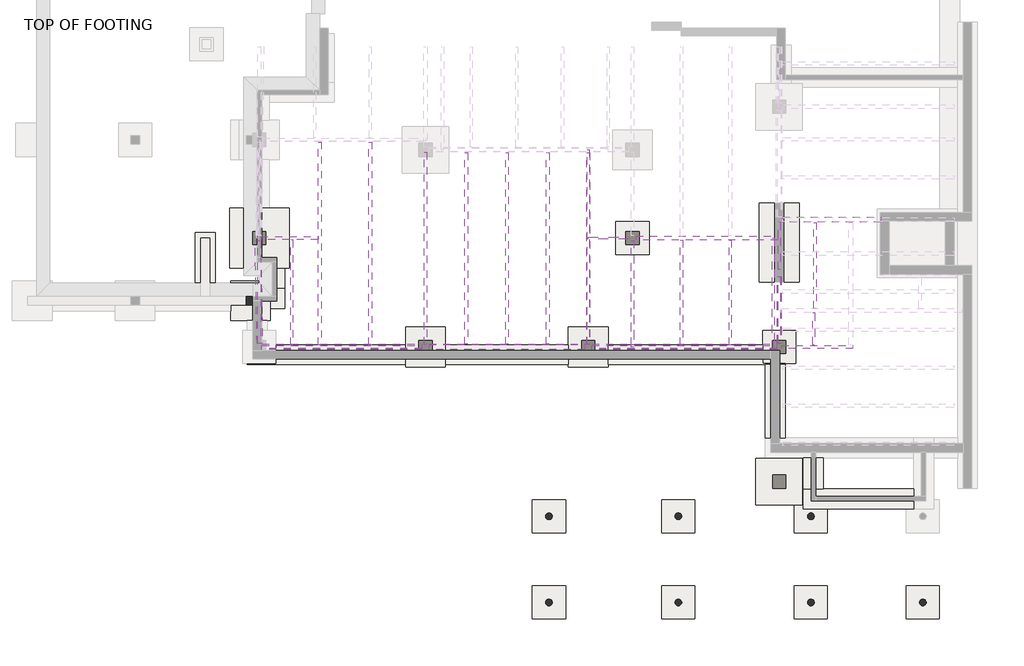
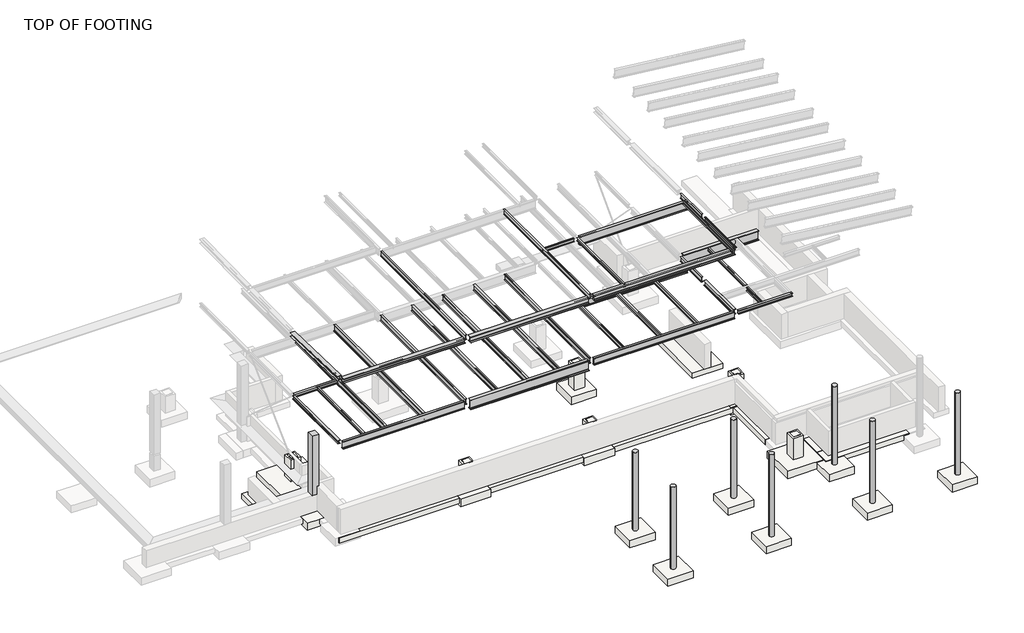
# One storey, part 2 of 4: 35 beams, 14 slabs, 8 columns, 8 footings.
"""IFC4 building model written with IfcOpenShell, lengths in millimetres."""

from ifc_helpers import new_model, si_unit, point, frame, frame_2d, origin, place, context, project, spatial, polyline, circle_curve, trimmed, segment, composite_curve, outline, extrude, faceted_brep, transform, mapped, element, save
from components import w_wide_flange_w10x12_1bd4f99f, w_wide_flange_w10x12_ebacd2cb, w_wide_flange_w10x49_96518129, w_wide_flange_w10x49_8d358260, w_wide_flange_w12x16_ddd03c39, w_wide_flange_w12x16_59da3857, w_wide_flange_w12x19_d63bb9e0, w_wide_flange_w12x30_b48d1e93, w_wide_flange_w12x53_96ffc1ec, w_wide_flange_w14x22_2ac3afcd, w_wide_flange_w14x22_4ceff1ba, w_wide_flange_w14x22_2e51511a, w_wide_flange_w14x22_ec72dc32, w_wide_flange_w14x61_86819d2a, w_wide_flange_w16x26_70125ba5, w_wide_flange_w16x31_951fd6ce, w_wide_flange_w18x46_b0132ec0, w_wide_flange_w21x44_c4d24364, w_wide_flange_w24x84_e470d529, w_wide_flange_w24x84_4409fa3f, w_wide_flange_w8x10_84c81e36, w_wide_flange_w8x10_45ce977e, w_wide_flange_w8x10_f623109c, w_wide_flange_w8x10_993dd0ac, w_wide_flange_w8x10_f96a4068, w_wide_flange_w8x10_729b3ca8, w_wide_flange_w8x10_84773640, w_wide_flange_w8x18_c4c3ec7c, w_wide_flange_w8x18_5f46299d, w_wide_flange_w8x18_17d6e70c, slab_df1ede25, footing_rectangular_with_pier_95157401

model = new_model("IFC4")

# Units and contexts
model_context = context("Model", 3, world=origin())
ifc_project = project(units=[si_unit("LENGTHUNIT", "METRE", prefix="MILLI")], contexts=[model_context])

# Site, building, storey
site = spatial("IfcSite", under=ifc_project)
building = spatial("IfcBuilding", under=site)
storey = spatial("IfcBuildingStorey", under=building, Name="TOP OF FOOTING", Elevation=28905.2)

# Beams
placement = place(None, origin())
w_wide_flange_w10x12_shape = w_wide_flange_w10x12_1bd4f99f(model_context)
element("IfcBeam", 1, ObjectType="W-Wide Flange : W10X12", at=placement, inside=storey, context=model_context, shape_type="MappedRepresentation", body=[
    mapped(w_wide_flange_w10x12_shape, transform((9072.9878726, -4439.2429995, 34253.551), x_axis=(0.0, -1.0, 0.0), y_axis=(1.0, 0.0, 0.0), z_axis=(0.0, 0.0, 1.0))),
])
element("IfcBeam", 2, ObjectType="W-Wide Flange : W10X12", at=placement, inside=storey, context=model_context, shape_type="MappedRepresentation", body=[
    mapped(w_wide_flange_w10x12_shape, transform((11320.358706, -4439.2429995, 34253.551), x_axis=(0.0, -1.0, 0.0), y_axis=(1.0, 0.0, 0.0), z_axis=(0.0, 0.0, 1.0))),
])
w_wide_flange_w10x12_2_shape = w_wide_flange_w10x12_ebacd2cb(model_context)
element("IfcBeam", 3, ObjectType="W-Wide Flange : W10X12", at=placement, inside=storey, context=model_context, shape_type="MappedRepresentation", body=[
    mapped(w_wide_flange_w10x12_2_shape, transform((6825.6170393, -4439.2429995, 34253.551), x_axis=(0.0, -1.0, 0.0), y_axis=(1.0, 0.0, 0.0), z_axis=(0.0, 0.0, 1.0))),
])
w_wide_flange_w10x49_shape = w_wide_flange_w10x49_96518129(model_context)
element("IfcBeam", 4, ObjectType="W-Wide Flange : W10X49", at=placement, inside=storey, context=model_context, shape_type="MappedRepresentation", body=[
    mapped(w_wide_flange_w10x49_shape, transform((-6564.9454607, -6942.7304995, 38277.8), x_axis=(1.0, 0.0, 0.0), y_axis=(0.0, 1.0, 0.0), z_axis=(0.0, 0.0, 1.0))),
])
w_wide_flange_w10x49_2_shape = w_wide_flange_w10x49_8d358260(model_context)
element("IfcBeam", 5, ObjectType="W-Wide Flange : W10X49", at=placement, inside=storey, context=model_context, shape_type="MappedRepresentation", body=[
    mapped(w_wide_flange_w10x49_2_shape, transform((-10353.3115157, -4435.9636409, 38341.3), x_axis=(-0.01923994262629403, 0.9998148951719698, 0.0), y_axis=(-0.9998148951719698, -0.01923994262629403, 0.0), z_axis=(0.0, 0.0, 1.0))),
])
w_wide_flange_w12x16_shape = w_wide_flange_w12x16_ddd03c39(model_context)
element("IfcBeam", 6, ObjectType="W-Wide Flange : W12X16", at=placement, inside=storey, context=model_context, shape_type="MappedRepresentation", body=[
    mapped(w_wide_flange_w12x16_shape, transform((-2689.8579607, -2446.9304995, 38315.9), x_axis=(0.0, 1.0, 0.0), y_axis=(-1.0, 0.0, 0.0), z_axis=(0.0, 0.0, 1.0))),
])
w_wide_flange_w12x16_2_shape = w_wide_flange_w12x16_59da3857(model_context)
element("IfcBeam", 7, ObjectType="W-Wide Flange : W12X16", at=placement, inside=storey, context=model_context, shape_type="MappedRepresentation", body=[
    mapped(w_wide_flange_w12x16_2_shape, transform((13567.7295393, -2311.9929995, 34226.5), x_axis=(0.0, 1.0, 0.0), y_axis=(-1.0, 0.0, 0.0), z_axis=(0.0, 0.0, 1.0))),
])
element("IfcBeam", 8, ObjectType="W-Wide Flange : W12X16", at=placement, inside=storey, context=model_context, shape_type="MappedRepresentation", body=[
    mapped(w_wide_flange_w12x16_2_shape, transform((13567.7295393, -2311.9929995, 38252.4), x_axis=(0.0, 1.0, 0.0), y_axis=(-1.0, 0.0, 0.0), z_axis=(0.0, 0.0, 1.0))),
])
w_wide_flange_w12x19_shape = w_wide_flange_w12x19_d63bb9e0(model_context)
element("IfcBeam", 9, ObjectType="W-Wide Flange : W12X19", at=placement, inside=storey, context=model_context, shape_type="MappedRepresentation", body=[
    mapped(w_wide_flange_w12x19_shape, transform((4795.2045393, -2446.9304995, 38313.36), x_axis=(0.0, 1.0, 0.0), y_axis=(-1.0, 0.0, 0.0), z_axis=(0.0, 0.0, 1.0))),
])
w_wide_flange_w12x30_shape = w_wide_flange_w12x30_b48d1e93(model_context)
element("IfcBeam", 10, ObjectType="W-Wide Flange : W12X30", at=placement, inside=storey, context=model_context, shape_type="MappedRepresentation", body=[
    mapped(w_wide_flange_w12x30_shape, transform((13567.7295393, -5240.9304995, 34222.69), x_axis=(0.0, 1.0, 0.0), y_axis=(-1.0, 0.0, 0.0), z_axis=(0.0, 0.0, 1.0))),
])
w_wide_flange_w12x53_shape = w_wide_flange_w12x53_96ffc1ec(model_context)
element("IfcBeam", 11, ObjectType="W-Wide Flange : W12X53", at=placement, inside=storey, context=model_context, shape_type="MappedRepresentation", body=[
    mapped(w_wide_flange_w12x53_shape, transform((9181.4670393, -6942.7304995, 38251.13), x_axis=(1.0, 0.0, 0.0), y_axis=(0.0, 1.0, 0.0), z_axis=(0.0, 0.0, 1.0))),
])
w_wide_flange_w14x22_shape = w_wide_flange_w14x22_2ac3afcd(model_context)
element("IfcBeam", 12, ObjectType="W-Wide Flange : W14X22", at=placement, inside=storey, context=model_context, shape_type="MappedRepresentation", body=[
    mapped(w_wide_flange_w14x22_shape, transform((-2689.8579607, -2446.9304995, 34204.91), x_axis=(0.0, 1.0, 0.0), y_axis=(-1.0, 0.0, 0.0), z_axis=(0.0, 0.0, 1.0))),
])
w_wide_flange_w14x22_2_shape = w_wide_flange_w14x22_4ceff1ba(model_context)
element("IfcBeam", 13, ObjectType="W-Wide Flange : W14X22", at=placement, inside=storey, context=model_context, shape_type="MappedRepresentation", body=[
    mapped(w_wide_flange_w14x22_2_shape, transform((4795.2045393, -2446.9304995, 34204.91), x_axis=(0.0, 1.0, 0.0), y_axis=(-1.0, 0.0, 0.0), z_axis=(0.0, 0.0, 1.0))),
])
w_wide_flange_w14x22_3_shape = w_wide_flange_w14x22_2e51511a(model_context)
element("IfcBeam", 14, ObjectType="W-Wide Flange : W14X22", at=placement, inside=storey, context=model_context, shape_type="MappedRepresentation", body=[
    mapped(w_wide_flange_w14x22_3_shape, transform((-7549.1954607, -2180.2304995, 34204.91), x_axis=(0.0, 1.0, 0.0), y_axis=(-1.0, 0.0, 0.0), z_axis=(0.0, 0.0, 1.0))),
])
w_wide_flange_w14x22_4_shape = w_wide_flange_w14x22_ec72dc32(model_context)
element("IfcBeam", 15, ObjectType="W-Wide Flange : W14X22", at=placement, inside=storey, context=model_context, shape_type="MappedRepresentation", body=[
    mapped(w_wide_flange_w14x22_4_shape, transform((-818.5923357, -2408.8304995, 34204.91), x_axis=(0.0, 1.0, 0.0), y_axis=(-1.0, 0.0, 0.0), z_axis=(0.0, 0.0, 1.0))),
])
element("IfcBeam", 16, ObjectType="W-Wide Flange : W14X22", at=placement, inside=storey, context=model_context, shape_type="MappedRepresentation", body=[
    mapped(w_wide_flange_w14x22_4_shape, transform((1052.6732893, -2408.8304995, 34204.91), x_axis=(0.0, 1.0, 0.0), y_axis=(-1.0, 0.0, 0.0), z_axis=(0.0, 0.0, 1.0))),
])
element("IfcBeam", 17, ObjectType="W-Wide Flange : W14X22", at=placement, inside=storey, context=model_context, shape_type="MappedRepresentation", body=[
    mapped(w_wide_flange_w14x22_4_shape, transform((2923.9389143, -2408.8304995, 34204.91), x_axis=(0.0, 1.0, 0.0), y_axis=(-1.0, 0.0, 0.0), z_axis=(0.0, 0.0, 1.0))),
])
w_wide_flange_w14x61_shape = w_wide_flange_w14x61_86819d2a(model_context)
element("IfcBeam", 18, ObjectType="W-Wide Flange : W14X61", at=placement, inside=storey, context=model_context, shape_type="MappedRepresentation", body=[
    mapped(w_wide_flange_w14x61_shape, transform((985.2045393, -6942.7304995, 38228.27), x_axis=(1.0, 0.0, 0.0), y_axis=(0.0, 1.0, 0.0), z_axis=(0.0, 0.0, 1.0))),
])
w_wide_flange_w16x26_shape = w_wide_flange_w16x26_70125ba5(model_context)
element("IfcBeam", 19, ObjectType="W-Wide Flange : W16X26", at=placement, inside=storey, context=model_context, shape_type="MappedRepresentation", body=[
    mapped(w_wide_flange_w16x26_shape, transform((-5228.2704607, -2180.2304995, 34179.51), x_axis=(0.0, 1.0, 0.0), y_axis=(-1.0, 0.0, 0.0), z_axis=(0.0, 0.0, 1.0))),
])
w_wide_flange_w16x31_shape = w_wide_flange_w16x31_951fd6ce(model_context)
element("IfcBeam", 20, ObjectType="W-Wide Flange : W16X31", at=placement, inside=storey, context=model_context, shape_type="MappedRepresentation", body=[
    mapped(w_wide_flange_w16x31_shape, transform((9181.4670393, -6942.7304995, 34176.97), x_axis=(1.0, 0.0, 0.0), y_axis=(0.0, 1.0, 0.0), z_axis=(0.0, 0.0, 1.0))),
])
w_wide_flange_w18x46_shape = w_wide_flange_w18x46_b0132ec0(model_context)
element("IfcBeam", 21, ObjectType="W-Wide Flange : W18X46", at=placement, inside=storey, context=model_context, shape_type="MappedRepresentation", body=[
    mapped(w_wide_flange_w18x46_shape, transform((-6564.9454607, -6942.7304995, 34149.03), x_axis=(1.0, 0.0, 0.0), y_axis=(0.0, 1.0, 0.0), z_axis=(0.0, 0.0, 1.0))),
])
w_wide_flange_w21x44_shape = w_wide_flange_w21x44_c4d24364(model_context)
element("IfcBeam", 22, ObjectType="W-Wide Flange : W21X44", at=placement, inside=storey, context=model_context, shape_type="MappedRepresentation", body=[
    mapped(w_wide_flange_w21x44_shape, transform((10196.6732893, -1935.7554995, 34116.01), x_axis=(1.0, 0.0, 0.0), y_axis=(0.0, 1.0, 0.0), z_axis=(0.0, 0.0, 1.0))),
])
element("IfcBeam", 23, ObjectType="W-Wide Flange : W21X44", at=placement, inside=storey, context=model_context, shape_type="MappedRepresentation", body=[
    mapped(w_wide_flange_w21x44_shape, transform((10196.6732893, -1935.7554995, 38141.91), x_axis=(1.0, 0.0, 0.0), y_axis=(0.0, 1.0, 0.0), z_axis=(0.0, 0.0, 1.0))),
])
w_wide_flange_w24x84_shape = w_wide_flange_w24x84_e470d529(model_context)
element("IfcBeam", 24, ObjectType="W-Wide Flange : W24X84", at=placement, inside=storey, context=model_context, shape_type="MappedRepresentation", body=[
    mapped(w_wide_flange_w24x84_shape, transform((985.2045393, -6942.7304995, 34072.83), x_axis=(1.0, 0.0, 0.0), y_axis=(0.0, 1.0, 0.0), z_axis=(0.0, 0.0, 1.0))),
])
w_wide_flange_w24x84_2_shape = w_wide_flange_w24x84_4409fa3f(model_context)
element("IfcBeam", 25, ObjectType="W-Wide Flange : W24X84", at=placement, inside=storey, context=model_context, shape_type="MappedRepresentation", body=[
    mapped(w_wide_flange_w24x84_2_shape, transform((15995.3891096, -1084.8554995, 34072.83), x_axis=(1.0, 0.0, 0.0), y_axis=(0.0, 1.0, 0.0), z_axis=(0.0, 0.0, 1.0))),
])
w_wide_flange_w8x10_shape = w_wide_flange_w8x10_84c81e36(model_context)
element("IfcBeam", 26, ObjectType="W-Wide Flange : W8X10", at=placement, inside=storey, context=model_context, shape_type="MappedRepresentation", body=[
    mapped(w_wide_flange_w8x10_shape, transform((-8844.5954607, -4439.2429995, 34278.697), x_axis=(0.0, 1.0, 0.0), y_axis=(-1.0, 0.0, 0.0), z_axis=(0.0, 0.0, 1.0))),
])
w_wide_flange_w8x10_2_shape = w_wide_flange_w8x10_45ce977e(model_context)
element("IfcBeam", 27, ObjectType="W-Wide Flange : W8X10", at=placement, inside=storey, context=model_context, shape_type="MappedRepresentation", body=[
    mapped(w_wide_flange_w8x10_2_shape, transform((13297.8545393, -4477.3429995, 38368.097), x_axis=(0.0, 1.0, 0.0), y_axis=(-1.0, 0.0, 0.0), z_axis=(0.0, 0.0, 1.0))),
])
w_wide_flange_w8x10_3_shape = w_wide_flange_w8x10_f623109c(model_context)
element("IfcBeam", 28, ObjectType="W-Wide Flange : W8X10", at=placement, inside=storey, context=model_context, shape_type="MappedRepresentation", body=[
    mapped(w_wide_flange_w8x10_3_shape, transform((13567.7295393, -5240.9304995, 38304.597), x_axis=(0.0, 1.0, 0.0), y_axis=(-1.0, 0.0, 0.0), z_axis=(0.0, 0.0, 1.0))),
])
w_wide_flange_w8x10_4_shape = w_wide_flange_w8x10_993dd0ac(model_context)
element("IfcBeam", 29, ObjectType="W-Wide Flange : W8X10", at=placement, inside=storey, context=model_context, shape_type="MappedRepresentation", body=[
    mapped(w_wide_flange_w8x10_4_shape, transform((15158.4045393, -6104.5304995, 34278.697), x_axis=(0.0, 1.0, 0.0), y_axis=(-1.0, 0.0, 0.0), z_axis=(0.0, 0.0, 1.0))),
])
w_wide_flange_w8x10_5_shape = w_wide_flange_w8x10_f96a4068(model_context)
element("IfcBeam", 30, ObjectType="W-Wide Flange : W8X10", at=placement, inside=storey, context=model_context, shape_type="MappedRepresentation", body=[
    mapped(w_wide_flange_w8x10_5_shape, transform((15213.9670393, -3175.5929995, 34278.697), x_axis=(0.0, 1.0, 0.0), y_axis=(-1.0, 0.0, 0.0), z_axis=(0.0, 0.0, 1.0))),
])
w_wide_flange_w8x10_6_shape = w_wide_flange_w8x10_729b3ca8(model_context)
element("IfcBeam", 31, ObjectType="W-Wide Flange : W8X10", at=placement, inside=storey, context=model_context, shape_type="MappedRepresentation", body=[
    mapped(w_wide_flange_w8x10_6_shape, transform((6825.6170393, -4439.2429995, 38368.097), x_axis=(0.0, -1.0, 0.0), y_axis=(1.0, 0.0, 0.0), z_axis=(0.0, 0.0, 1.0))),
])
w_wide_flange_w8x10_7_shape = w_wide_flange_w8x10_84773640(model_context)
element("IfcBeam", 32, ObjectType="W-Wide Flange : W8X10", at=placement, inside=storey, context=model_context, shape_type="MappedRepresentation", body=[
    mapped(w_wide_flange_w8x10_7_shape, transform((5802.693765, -1935.7554995, 38304.597), x_axis=(-1.0, 0.0, 0.0), y_axis=(0.0, -1.0, 0.0), z_axis=(0.0, 0.0, 1.0))),
])
w_wide_flange_w8x18_shape = w_wide_flange_w8x18_c4c3ec7c(model_context)
element("IfcBeam", 33, ObjectType="W-Wide Flange : W8X18", at=placement, inside=storey, context=model_context, shape_type="MappedRepresentation", body=[
    mapped(w_wide_flange_w8x18_shape, transform((15213.9670393, -6942.7304995, 34275.522), x_axis=(1.0, 0.0, 0.0), y_axis=(0.0, 1.0, 0.0), z_axis=(0.0, 0.0, 1.0))),
])
w_wide_flange_w8x18_2_shape = w_wide_flange_w8x18_5f46299d(model_context)
element("IfcBeam", 34, ObjectType="W-Wide Flange : W8X18", at=placement, inside=storey, context=model_context, shape_type="MappedRepresentation", body=[
    mapped(w_wide_flange_w8x18_2_shape, transform((-10327.3204607, -4437.8823673, 34275.522), x_axis=(0.0, -1.0, 0.0), y_axis=(1.0, 0.0, 0.0), z_axis=(0.0, 0.0, 1.0))),
])
w_wide_flange_w8x18_3_shape = w_wide_flange_w8x18_17d6e70c(model_context)
element("IfcBeam", 35, ObjectType="W-Wide Flange : W8X18", at=placement, inside=storey, context=model_context, shape_type="MappedRepresentation", body=[
    mapped(w_wide_flange_w8x18_3_shape, transform((-8938.2579607, -1935.7554995, 34275.522), x_axis=(1.0, 0.0, 0.0), y_axis=(0.0, 1.0, 0.0), z_axis=(0.0, 0.0, 1.0))),
])

# Columns
element("IfcColumn", 36, ObjectType="Concrete-Rectangular-Column : 16 x 16", at=placement, inside=storey, context=model_context, shape_type="Brep", body=[
    faceted_brep([(-10529.7763201, -4618.6304995, 33782.0), (-10529.7763201, -5025.0304995, 33782.0), (-10529.7763201, -5025.0304995, 30480.0), (-10529.7763201, -4618.6304995, 30480.0), (-10936.1763201, -5025.0304995, 33782.0), (-10936.1763201, -5025.0304995, 29972.0), (-10632.1204607, -5025.0304995, 29972.0), (-10632.1204607, -5025.0304995, 30480.0), (-10936.1763201, -4618.6304995, 33782.0), (-10936.1763201, -4618.6304995, 29972.0), (-10632.1204607, -4618.6304995, 30480.0), (-10632.1204607, -4618.6304995, 29972.0), (-10632.1204607, -4821.8304995, 30480.0)], [[[0, 1, 2, 3]], [[1, 4, 5, 6, 7, 2]], [[4, 8, 9, 5]], [[8, 0, 3, 10, 11, 9]], [[1, 0, 8, 4]], [[11, 6, 5, 9]], [[7, 6, 11, 10, 12]], [[7, 12, 10, 3, 2]]]),
])
element("IfcColumn", 37, ObjectType="Concrete-Round-Column1 : 12\"", at=placement, inside=storey, context=model_context, shape_type="SweptSolid", body=[
    extrude(outline(composite_curve([segment(trimmed(circle_curve(frame_2d((15024.5462086, -14731.7497924)), 152.4), [point((14872.1462086, -14731.7497924))], [point((15176.9462086, -14731.7497924))], False, "CARTESIAN"), True, "CONTINUOUS"), segment(trimmed(circle_curve(frame_2d((15024.5462086, -14731.7497924)), 152.4), [point((15176.9462086, -14731.7497924))], [point((14872.1462086, -14731.7497924))], False, "CARTESIAN"), True, "CONTINUOUS")], self_intersect=False)), frame((0.0, 0.0, 28854.4), z_axis=(0.0, 0.0, 1.0), x_axis=(1.0, 0.0, 0.0)), (0.0, 0.0, 1.0), 5003.8),
])
element("IfcColumn", 38, ObjectType="Concrete-Round-Column1 : 12\"", at=placement, inside=storey, context=model_context, shape_type="SweptSolid", body=[
    extrude(outline(composite_curve([segment(trimmed(circle_curve(frame_2d((8928.5462086, -14731.7497924)), 152.4), [point((8776.1462086, -14731.7497924))], [point((9080.9462086, -14731.7497924))], False, "CARTESIAN"), True, "CONTINUOUS"), segment(trimmed(circle_curve(frame_2d((8928.5462086, -14731.7497924)), 152.4), [point((9080.9462086, -14731.7497924))], [point((8776.1462086, -14731.7497924))], False, "CARTESIAN"), True, "CONTINUOUS")], self_intersect=False)), frame((0.0, 0.0, 28854.4), z_axis=(0.0, 0.0, 1.0), x_axis=(1.0, 0.0, 0.0)), (0.0, 0.0, 1.0), 5003.8),
])
element("IfcColumn", 39, ObjectType="Concrete-Round-Column1 : 12\"", at=placement, inside=storey, context=model_context, shape_type="SweptSolid", body=[
    extrude(outline(composite_curve([segment(trimmed(circle_curve(frame_2d((2984.9462086, -14731.7497924)), 152.4), [point((2832.5462086, -14731.7497924))], [point((3137.3462086, -14731.7497924))], False, "CARTESIAN"), True, "CONTINUOUS"), segment(trimmed(circle_curve(frame_2d((2984.9462086, -14731.7497924)), 152.4), [point((3137.3462086, -14731.7497924))], [point((2832.5462086, -14731.7497924))], False, "CARTESIAN"), True, "CONTINUOUS")], self_intersect=False)), frame((0.0, 0.0, 28854.4), z_axis=(0.0, 0.0, 1.0), x_axis=(1.0, 0.0, 0.0)), (0.0, 0.0, 1.0), 5003.8),
])
element("IfcColumn", 40, ObjectType="Concrete-Round-Column1 : 12\"", at=placement, inside=storey, context=model_context, shape_type="SweptSolid", body=[
    extrude(outline(composite_curve([segment(trimmed(circle_curve(frame_2d((20168.0462086, -18694.1497924)), 152.4), [point((20015.6462086, -18694.1497924))], [point((20320.4462086, -18694.1497924))], False, "CARTESIAN"), True, "CONTINUOUS"), segment(trimmed(circle_curve(frame_2d((20168.0462086, -18694.1497924)), 152.4), [point((20320.4462086, -18694.1497924))], [point((20015.6462086, -18694.1497924))], False, "CARTESIAN"), True, "CONTINUOUS")], self_intersect=False)), frame((0.0, 0.0, 28803.6), z_axis=(0.0, 0.0, 1.0), x_axis=(1.0, 0.0, 0.0)), (0.0, 0.0, 1.0), 5232.4),
])
element("IfcColumn", 41, ObjectType="Concrete-Round-Column1 : 12\"", at=placement, inside=storey, context=model_context, shape_type="SweptSolid", body=[
    extrude(outline(composite_curve([segment(trimmed(circle_curve(frame_2d((15024.5462086, -18694.1497924)), 152.4), [point((14872.1462086, -18694.1497924))], [point((15176.9462086, -18694.1497924))], False, "CARTESIAN"), True, "CONTINUOUS"), segment(trimmed(circle_curve(frame_2d((15024.5462086, -18694.1497924)), 152.4), [point((15176.9462086, -18694.1497924))], [point((14872.1462086, -18694.1497924))], False, "CARTESIAN"), True, "CONTINUOUS")], self_intersect=False)), frame((0.0, 0.0, 28803.6), z_axis=(0.0, 0.0, 1.0), x_axis=(1.0, 0.0, 0.0)), (0.0, 0.0, 1.0), 5232.4),
])
element("IfcColumn", 42, ObjectType="Concrete-Round-Column1 : 12\"", at=placement, inside=storey, context=model_context, shape_type="SweptSolid", body=[
    extrude(outline(composite_curve([segment(trimmed(circle_curve(frame_2d((8928.5462086, -18694.1497924)), 152.4), [point((8776.1462086, -18694.1497924))], [point((9080.9462086, -18694.1497924))], False, "CARTESIAN"), True, "CONTINUOUS"), segment(trimmed(circle_curve(frame_2d((8928.5462086, -18694.1497924)), 152.4), [point((9080.9462086, -18694.1497924))], [point((8776.1462086, -18694.1497924))], False, "CARTESIAN"), True, "CONTINUOUS")], self_intersect=False)), frame((0.0, 0.0, 28803.6), z_axis=(0.0, 0.0, 1.0), x_axis=(1.0, 0.0, 0.0)), (0.0, 0.0, 1.0), 5232.4),
])
element("IfcColumn", 43, ObjectType="Concrete-Round-Column1 : 12\"", at=placement, inside=storey, context=model_context, shape_type="SweptSolid", body=[
    extrude(outline(composite_curve([segment(trimmed(circle_curve(frame_2d((2984.9462086, -18694.1497924)), 152.4), [point((2832.5462086, -18694.1497924))], [point((3137.3462086, -18694.1497924))], False, "CARTESIAN"), True, "CONTINUOUS"), segment(trimmed(circle_curve(frame_2d((2984.9462086, -18694.1497924)), 152.4), [point((3137.3462086, -18694.1497924))], [point((2832.5462086, -18694.1497924))], False, "CARTESIAN"), True, "CONTINUOUS")], self_intersect=False)), frame((0.0, 0.0, 28803.6), z_axis=(0.0, 0.0, 1.0), x_axis=(1.0, 0.0, 0.0)), (0.0, 0.0, 1.0), 5232.4),
])

# Footings
element("IfcFooting", 44, ObjectType="Bearing Footing - 36\" x 12\"", at=placement, inside=storey, context=model_context, shape_type="Brep", body=[
    faceted_brep([(14682.1545393, -14384.9304995, 28905.2), (19749.4545393, -14384.9304995, 28905.2), (19749.4545393, -13470.5304995, 28905.2), (15596.5545393, -13470.5304995, 28905.2), (14682.1545393, -13470.5304995, 28905.2), (19749.4545393, -13470.5304995, 28600.4), (15596.5545393, -13470.5304995, 28600.4), (14682.1545393, -13470.5304995, 28600.4), (19749.4545393, -13969.7497924, 28600.4), (19406.0462086, -13969.7497924, 28600.4), (19406.0462086, -14384.9304995, 28600.4), (15786.5462086, -14384.9304995, 28600.4), (15786.5462086, -13969.7497924, 28600.4), (14682.1545393, -13969.7497924, 28600.4), (14682.1545393, -14384.9304995, 28854.4), (15786.5462086, -14384.9304995, 28854.4), (19406.0462086, -14384.9304995, 28854.4), (19749.4545393, -14384.9304995, 28854.4), (19749.4545393, -13969.7497924, 28854.4), (14682.1545393, -13969.7497924, 28854.4), (15786.5462086, -13969.7497924, 28854.4), (19406.0462086, -13969.7497924, 28854.4)], [[[0, 1, 2, 3, 4]], [[4, 3, 2, 5, 6, 7]], [[7, 6, 5, 8, 9, 10, 11, 12, 13]], [[1, 0, 14, 15, 11, 10, 16, 17]], [[2, 1, 17, 18, 8, 5]], [[0, 4, 7, 13, 19, 14]], [[20, 15, 14, 19]], [[12, 20, 19, 13]], [[15, 20, 12, 11]], [[16, 21, 18, 17]], [[18, 21, 9, 8]], [[21, 16, 10, 9]]]),
])
element("IfcFooting", 45, ObjectType="Bearing Footing - 36\" x 12\"", at=placement, inside=storey, context=model_context, shape_type="Brep", body=[
    faceted_brep([(-9565.3204607, -7704.7304995, 28905.2), (-10886.1204607, -7704.7304995, 28905.2), (-10886.1204607, -7755.5304995, 28905.2), (-3604.2579607, -7755.5304995, 28905.2), (-3604.2579607, -6841.1304995, 28905.2), (-9565.3204607, -6841.1304995, 28905.2), (-10886.1204607, -7755.5304995, 28600.4), (-3604.2579607, -7755.5304995, 28600.4), (-10886.1204607, -7704.7304995, 28600.4), (-9565.3204607, -7704.7304995, 28600.4), (-9565.3204607, -6841.1304995, 28600.4), (-3604.2579607, -6841.1304995, 28600.4)], [[[0, 1, 2, 3, 4, 5]], [[2, 6, 7, 3]], [[7, 6, 8, 9, 10, 11]], [[10, 5, 4, 11]], [[0, 9, 8, 1]], [[9, 0, 5, 10]], [[6, 2, 1, 8]], [[4, 3, 7, 11]]]),
    faceted_brep([(12805.7295393, -7704.7304995, 28905.2), (12805.7295393, -6841.1304995, 28905.2), (5709.6045393, -6841.1304995, 28905.2), (5709.6045393, -7755.5304995, 28905.2), (12923.2045393, -7755.5304995, 28905.2), (13837.6045393, -7755.5304995, 28905.2), (13837.6045393, -7704.7304995, 28905.2), (13837.6045393, -7755.5304995, 28600.4), (5709.6045393, -7755.5304995, 28600.4), (12923.2045393, -7755.5304995, 28600.4), (13837.6045393, -7704.7304995, 28600.4), (5709.6045393, -6841.1304995, 28600.4), (12805.7295393, -6841.1304995, 28600.4), (12805.7295393, -7704.7304995, 28600.4)], [[[0, 1, 2, 3, 4, 5, 6]], [[7, 5, 4, 3, 8, 9]], [[10, 7, 9, 8, 11, 12, 13]], [[1, 12, 11, 2]], [[0, 13, 12, 1]], [[13, 0, 6, 10]], [[5, 7, 10, 6]], [[3, 2, 11, 8]]]),
    faceted_brep([(-1775.4579607, -6841.1304995, 28905.2), (-1775.4579607, -7755.5304995, 28905.2), (3880.8045393, -7755.5304995, 28905.2), (3880.8045393, -6841.1304995, 28905.2), (-1775.4579607, -7755.5304995, 28600.4), (3880.8045393, -7755.5304995, 28600.4), (-1775.4579607, -6841.1304995, 28600.4), (3880.8045393, -6841.1304995, 28600.4)], [[[0, 1, 2, 3]], [[1, 4, 5, 2]], [[4, 6, 7, 5]], [[6, 0, 3, 7]], [[1, 0, 6, 4]], [[3, 2, 5, 7]]]),
])
element("IfcFooting", 46, ObjectType="Bearing Footing - 36\" x 12\"", at=placement, inside=storey, context=model_context, shape_type="SweptSolid", body=[
    extrude(outline(polyline([(14682.1545393, -12041.7804995), (15596.5545393, -12041.7804995), (15596.5545393, -13470.5304995), (14682.1545393, -13470.5304995), (14682.1545393, -12041.7804995)])), frame((0.0, 0.0, 28600.4), z_axis=(0.0, 0.0, 1.0), x_axis=(1.0, 0.0, 0.0)), (0.0, 0.0, 1.0), 304.8),
])
element("IfcFooting", 47, ObjectType="Bearing Footing - 36\" x 12\"", at=placement, inside=storey, context=model_context, shape_type="SweptSolid", body=[
    extrude(outline(polyline([(12923.2045393, -7755.5304995), (13837.6045393, -7755.5304995), (13837.6045393, -11127.3804995), (12923.2045393, -11127.3804995), (12923.2045393, -7755.5304995)])), frame((0.0, 0.0, 28600.4), z_axis=(0.0, 0.0, 1.0), x_axis=(1.0, 0.0, 0.0)), (0.0, 0.0, 1.0), 304.8),
])
element("IfcFooting", 48, ObjectType="Bearing Footing - 36\" x 12\"", at=placement, inside=storey, context=model_context, shape_type="SweptSolid", body=[
    extrude(outline(polyline([(-12354.5579607, -4364.6304995), (-13268.9579607, -4364.6304995), (-13268.9579607, -1681.7554995), (-12354.5579607, -1681.7554995), (-12354.5579607, -4364.6304995)])), frame((0.0, 0.0, 28600.4), z_axis=(0.0, 0.0, 1.0), x_axis=(1.0, 0.0, 0.0)), (0.0, 0.0, 1.0), 304.8),
])
element("IfcFooting", 49, ObjectType="Bearing Footing - 36\" x 12\"", at=placement, inside=storey, context=model_context, shape_type="SweptSolid", body=[
    extrude(outline(polyline([(-9168.4454607, -4263.0304995), (-9168.4454607, -5177.4304995), (-9818.5763201, -5177.4304995), (-9818.5763201, -4263.0304995), (-9168.4454607, -4263.0304995)])), frame((0.0, 0.0, 28600.4), z_axis=(0.0, 0.0, 1.0), x_axis=(1.0, 0.0, 0.0)), (0.0, 0.0, 1.0), 304.8),
])
element("IfcFooting", 50, ObjectType="Bearing Footing - 36\" x 12\"", at=placement, inside=storey, context=model_context, shape_type="Brep", body=[
    faceted_brep([(-10082.8454607, -3907.4304995, 28905.2), (-9818.5763201, -3907.4304995, 28905.2), (-9818.5763201, -4263.0304995, 28905.2), (-9168.4454607, -4263.0304995, 28905.2), (-9168.4454607, -3307.3554995, 28905.2), (-9870.1204607, -3307.3554995, 28905.2), (-9870.1204607, -3396.2554995, 28905.2), (-10082.8454607, -3396.2554995, 28905.2), (-9168.4454607, -3307.3554995, 28625.8), (-9168.4454607, -4263.0304995, 28600.4), (-9168.4454607, -2481.8554995, 28600.4), (-9168.4454607, -2481.8554995, 28625.8), (-9818.5763201, -3907.4304995, 28600.4), (-10082.8454607, -3907.4304995, 28600.4), (-10082.8454607, -3396.2554995, 28600.4), (-9870.1204607, -3396.2554995, 28600.4), (-9870.1204607, -2481.8554995, 28600.4), (-9818.5763201, -4263.0304995, 28600.4), (-9870.1204607, -3307.3554995, 28625.8), (-9870.1204607, -2481.8554995, 28625.8)], [[[0, 1, 2, 3, 4, 5, 6, 7]], [[8, 4, 3, 9, 10, 11]], [[12, 13, 14, 15, 16, 10, 9, 17]], [[13, 0, 7, 14]], [[4, 8, 18, 5]], [[12, 1, 0, 13]], [[1, 12, 17, 2]], [[3, 2, 17, 9]], [[11, 10, 16, 19]], [[15, 6, 5, 18, 19, 16]], [[6, 15, 14, 7]], [[8, 11, 19, 18]]]),
])
element("IfcFooting", 51, ObjectType="Bearing Footing - 72\" x 12\" 2", at=placement, inside=storey, context=model_context, shape_type="SweptSolid", body=[
    extrude(outline(polyline([(12653.3295393, -326.0304995), (14482.1295393, -326.0304995), (14482.1295393, -3958.2304995), (12653.3295393, -3958.2304995), (12653.3295393, -326.0304995)])), frame((0.0, 0.0, 28600.4), z_axis=(0.0, 0.0, 1.0), x_axis=(1.0, 0.0, 0.0)), (0.0, 0.0, 1.0), 304.8),
])

# Slabs
element("IfcSlab", 52, ObjectType="Footing-Rectangular : 5'-0\" x 5'-0\" x 1'-6\"", at=placement, inside=storey, context=model_context, shape_type="Brep", body=[
    faceted_brep([(14262.5462086, -15493.7497924, 28854.4), (15786.5462086, -15493.7497924, 28854.4), (15786.5462086, -14384.9304995, 28854.4), (15786.5462086, -13969.7497924, 28854.4), (14682.1545393, -13969.7497924, 28854.4), (14634.5295393, -13969.7497924, 28854.4), (14634.5295393, -14207.1801089, 28854.4), (14262.5462086, -14207.1801089, 28854.4), (15786.5462086, -13969.7497924, 28397.2), (15786.5462086, -15493.7497924, 28397.2), (14262.5462086, -15493.7497924, 28397.2), (14262.5462086, -13969.7497924, 28397.2), (14262.5462086, -13969.7497924, 28448.0), (14634.5295393, -13969.7497924, 28448.0), (15786.5462086, -13969.7497924, 28600.4), (14262.5462086, -14207.1801089, 28448.0), (14634.5295393, -14207.1801089, 28448.0)], [[[0, 1, 2, 3, 4, 5, 6, 7]], [[8, 9, 10, 11]], [[8, 11, 12, 13, 5, 4, 3, 14]], [[11, 10, 0, 7, 15, 12]], [[1, 0, 10, 9]], [[3, 2, 1, 9, 8, 14]], [[15, 16, 13, 12]], [[16, 15, 7, 6]], [[13, 16, 6, 5]]]),
])
slab_shape = slab_df1ede25(model_context)
element("IfcSlab", 53, ObjectType="Footing-Rectangular : 5'-0\" x 5'-0\" x 1'-6\"", at=placement, inside=storey, context=model_context, shape_type="MappedRepresentation", body=[
    mapped(slab_shape, transform((2984.9462086, -14731.7497924, 28854.4), x_axis=(1.0, 0.0, 0.0), y_axis=(0.0, 1.0, 0.0), z_axis=(0.0, 0.0, 1.0))),
])
element("IfcSlab", 54, ObjectType="Footing-Rectangular : 5'-0\" x 5'-0\" x 1'-6\"", at=placement, inside=storey, context=model_context, shape_type="MappedRepresentation", body=[
    mapped(slab_shape, transform((2984.9462086, -18694.1497924, 28803.6), x_axis=(1.0, 0.0, 0.0), y_axis=(0.0, 1.0, 0.0), z_axis=(0.0, 0.0, 1.0))),
])
element("IfcSlab", 55, ObjectType="Footing-Rectangular : 5'-0\" x 5'-0\" x 1'-6\"", at=placement, inside=storey, context=model_context, shape_type="MappedRepresentation", body=[
    mapped(slab_shape, transform((8928.5462086, -18694.1497924, 28803.6), x_axis=(1.0, 0.0, 0.0), y_axis=(0.0, 1.0, 0.0), z_axis=(0.0, 0.0, 1.0))),
])
element("IfcSlab", 56, ObjectType="Footing-Rectangular : 5'-0\" x 5'-0\" x 1'-6\"", at=placement, inside=storey, context=model_context, shape_type="MappedRepresentation", body=[
    mapped(slab_shape, transform((8928.5462086, -14731.7497924, 28854.4), x_axis=(1.0, 0.0, 0.0), y_axis=(0.0, 1.0, 0.0), z_axis=(0.0, 0.0, 1.0))),
])
element("IfcSlab", 57, ObjectType="Footing-Rectangular : 5'-0\" x 5'-0\" x 1'-6\"", at=placement, inside=storey, context=model_context, shape_type="MappedRepresentation", body=[
    mapped(slab_shape, transform((15024.5462086, -18694.1497924, 28803.6), x_axis=(1.0, 0.0, 0.0), y_axis=(0.0, 1.0, 0.0), z_axis=(0.0, 0.0, 1.0))),
])
element("IfcSlab", 58, ObjectType="Footing-Rectangular : 5'-0\" x 5'-0\" x 1'-6\"", at=placement, inside=storey, context=model_context, shape_type="MappedRepresentation", body=[
    mapped(slab_shape, transform((20168.0462086, -18694.1497924, 28803.6), x_axis=(1.0, 0.0, 0.0), y_axis=(0.0, 1.0, 0.0), z_axis=(0.0, 0.0, 1.0))),
])
element("IfcSlab", 59, ObjectType="Footing-Rectangular : 6'-0\" x 6'-0\" x 1'-6\"", at=placement, inside=storey, context=model_context, shape_type="Brep", body=[
    faceted_brep([(-9818.5763201, -3907.4304995, 28905.2), (-10082.8454607, -3907.4304995, 28905.2), (-11647.3763201, -3907.4304995, 28905.2), (-11647.3763201, -4364.6304995, 28905.2), (-11647.3763201, -5279.0304995, 28905.2), (-11647.3763201, -5736.2304995, 28905.2), (-10886.1204607, -5736.2304995, 28905.2), (-9971.7204607, -5736.2304995, 28905.2), (-9818.5763201, -5736.2304995, 28905.2), (-9818.5763201, -5177.4304995, 28905.2), (-9818.5763201, -4263.0304995, 28905.2), (-9818.5763201, -3907.4304995, 28448.0), (-9818.5763201, -5736.2304995, 28448.0), (-11647.3763201, -5736.2304995, 28448.0), (-11647.3763201, -3907.4304995, 28448.0), (-9818.5763201, -3907.4304995, 28600.4)], [[[0, 1, 2, 3, 4, 5, 6, 7, 8, 9, 10]], [[11, 12, 13, 14]], [[2, 1, 0, 15, 11, 14]], [[5, 4, 3, 2, 14, 13]], [[8, 7, 6, 5, 13, 12]], [[0, 10, 9, 8, 12, 11, 15]]]),
])
element("IfcSlab", 60, ObjectType="Footing-Rectangular_With_Pier : F2 - 9'-0\" x 9'-0\" x 1'-6\"", at=placement, inside=storey, context=model_context, shape_type="SolidModel", body=[
    extrude(outline(polyline([(-10022.5204607, -1630.9554995), (-10022.5204607, -2240.5554995), (-10632.1204607, -2240.5554995), (-10632.1204607, -1630.9554995), (-10022.5204607, -1630.9554995)])), frame((0.0, 0.0, 29083.0), z_axis=(0.0, 0.0, 1.0), x_axis=(1.0, 0.0, 0.0)), (0.0, 0.0, 1.0), 1371.6),
    faceted_brep([(-8955.7204607, -564.1554995, 29083.0), (-11698.9204607, -564.1554995, 29083.0), (-11698.9204607, -3307.3554995, 29083.0), (-8955.7204607, -3307.3554995, 29083.0), (-8955.7204607, -564.1554995, 28625.8), (-8955.7204607, -3307.3554995, 28625.8), (-9168.4454607, -3307.3554995, 28625.8), (-9870.1204607, -3307.3554995, 28625.8), (-10784.5204607, -3307.3554995, 28625.8), (-11698.9204607, -3307.3554995, 28625.8), (-11698.9204607, -564.1554995, 28625.8), (-10784.5204607, -564.1554995, 28625.8), (-9870.1204607, -564.1554995, 28625.8)], [[[0, 1, 2, 3]], [[4, 5, 6, 7, 8, 9, 10, 11, 12]], [[1, 0, 4, 12, 11, 10]], [[2, 1, 10, 9]], [[3, 2, 9, 8, 7, 6, 5]], [[0, 3, 5, 4]]]),
    extrude(outline(polyline([(-10124.1204607, -1732.5554995), (-10124.1204607, -2138.9554995), (-10530.5204607, -2138.9554995), (-10530.5204607, -1732.5554995), (-10124.1204607, -1732.5554995)])), frame((0.0, 0.0, 30454.6), z_axis=(0.0, 0.0, 1.0), x_axis=(1.0, 0.0, 0.0)), (0.0, 0.0, 1.0), 25.4),
])
element("IfcSlab", 61, ObjectType="Footing-Rectangular_With_Pier : F7 - 7'-0\" x 7'-0\" x 1'-6\"", at=placement, inside=storey, context=model_context, shape_type="SolidModel", body=[
    extrude(outline(polyline([(13872.5295393, -12835.5801089), (13872.5295393, -13445.1801089), (13262.9295393, -13445.1801089), (13262.9295393, -12835.5801089), (13872.5295393, -12835.5801089)])), frame((0.0, 0.0, 28905.2), z_axis=(0.0, 0.0, 1.0), x_axis=(1.0, 0.0, 0.0)), (0.0, 0.0, 1.0), 1371.6),
    faceted_brep([(14634.5295393, -12073.5801089, 28905.2), (12500.9295393, -12073.5801089, 28905.2), (12500.9295393, -14207.1801089, 28905.2), (14634.5295393, -14207.1801089, 28905.2), (14634.5295393, -12073.5801089, 28448.0), (14634.5295393, -13969.7497924, 28448.0), (14634.5295393, -14207.1801089, 28448.0), (14262.5462086, -14207.1801089, 28448.0), (12500.9295393, -14207.1801089, 28448.0), (12500.9295393, -12073.5801089, 28448.0), (14634.5295393, -14207.1801089, 28854.4)], [[[0, 1, 2, 3]], [[4, 5, 6, 7, 8, 9]], [[1, 0, 4, 9]], [[2, 1, 9, 8]], [[3, 2, 8, 7, 6, 10]], [[0, 3, 10, 6, 5, 4]]]),
    extrude(outline(polyline([(13770.9295393, -12937.1801089), (13770.9295393, -13343.5801089), (13364.5295393, -13343.5801089), (13364.5295393, -12937.1801089), (13770.9295393, -12937.1801089)])), frame((0.0, 0.0, 30276.8), z_axis=(0.0, 0.0, 1.0), x_axis=(1.0, 0.0, 0.0)), (0.0, 0.0, 1.0), 25.4),
])
element("IfcSlab", 62, ObjectType="Footing-Rectangular_With_Pier : F3 - 6'-0\" x 6'-0\" x 1'-6\"", at=placement, inside=storey, context=model_context, shape_type="SolidModel", body=[
    extrude(outline(polyline([(-2385.0579607, -6637.9304995), (-2385.0579607, -7247.5304995), (-2994.6579607, -7247.5304995), (-2994.6579607, -6637.9304995), (-2385.0579607, -6637.9304995)])), frame((0.0, 0.0, 28905.2), z_axis=(0.0, 0.0, 1.0), x_axis=(1.0, 0.0, 0.0)), (0.0, 0.0, 1.0), 1549.4),
    faceted_brep([(-1775.4579607, -6028.3304995, 28905.2), (-3604.2579607, -6028.3304995, 28905.2), (-3604.2579607, -6841.1304995, 28905.2), (-3604.2579607, -7755.5304995, 28905.2), (-3604.2579607, -7857.1304995, 28905.2), (-1775.4579607, -7857.1304995, 28905.2), (-1775.4579607, -7755.5304995, 28905.2), (-1775.4579607, -6841.1304995, 28905.2), (-1775.4579607, -6028.3304995, 28448.0), (-1775.4579607, -7857.1304995, 28448.0), (-3604.2579607, -7857.1304995, 28448.0), (-3604.2579607, -6028.3304995, 28448.0)], [[[0, 1, 2, 3, 4, 5, 6, 7]], [[8, 9, 10, 11]], [[1, 0, 8, 11]], [[4, 3, 2, 1, 11, 10]], [[5, 4, 10, 9]], [[0, 7, 6, 5, 9, 8]]]),
    extrude(outline(polyline([(-2486.6579607, -6739.5304995), (-2486.6579607, -7145.9304995), (-2893.0579607, -7145.9304995), (-2893.0579607, -6739.5304995), (-2486.6579607, -6739.5304995)])), frame((0.0, 0.0, 30454.6), z_axis=(0.0, 0.0, 1.0), x_axis=(1.0, 0.0, 0.0)), (0.0, 0.0, 1.0), 25.4),
])
element("IfcSlab", 63, ObjectType="Footing-Rectangular_With_Pier : F3 - 6'-0\" x 6'-0\" x 1'-6\"", at=placement, inside=storey, context=model_context, shape_type="SolidModel", body=[
    extrude(outline(polyline([(5100.0045393, -6637.9304995), (5100.0045393, -7247.5304995), (4490.4045393, -7247.5304995), (4490.4045393, -6637.9304995), (5100.0045393, -6637.9304995)])), frame((0.0, 0.0, 28905.2), z_axis=(0.0, 0.0, 1.0), x_axis=(1.0, 0.0, 0.0)), (0.0, 0.0, 1.0), 1549.4),
    faceted_brep([(5709.6045393, -6028.3304995, 28905.2), (3880.8045393, -6028.3304995, 28905.2), (3880.8045393, -6841.1304995, 28905.2), (3880.8045393, -7755.5304995, 28905.2), (3880.8045393, -7857.1304995, 28905.2), (5709.6045393, -7857.1304995, 28905.2), (5709.6045393, -7755.5304995, 28905.2), (5709.6045393, -6841.1304995, 28905.2), (5709.6045393, -6028.3304995, 28448.0), (5709.6045393, -7857.1304995, 28448.0), (3880.8045393, -7857.1304995, 28448.0), (3880.8045393, -6028.3304995, 28448.0)], [[[0, 1, 2, 3, 4, 5, 6, 7]], [[8, 9, 10, 11]], [[1, 0, 8, 11]], [[4, 3, 2, 1, 11, 10]], [[5, 4, 10, 9]], [[0, 7, 6, 5, 9, 8]]]),
    extrude(outline(polyline([(4998.4045393, -6739.5304995), (4998.4045393, -7145.9304995), (4592.0045393, -7145.9304995), (4592.0045393, -6739.5304995), (4998.4045393, -6739.5304995)])), frame((0.0, 0.0, 30454.6), z_axis=(0.0, 0.0, 1.0), x_axis=(1.0, 0.0, 0.0)), (0.0, 0.0, 1.0), 25.4),
])
element("IfcSlab", 64, ObjectType="Footing-Rectangular_With_Pier : F8 - 5'-0\" x 5'-0\" x 1'-6\"", at=placement, inside=storey, context=model_context, shape_type="SolidModel", body=[
    extrude(outline(polyline([(13872.5295393, -6637.9304995), (13872.5295393, -7247.5304995), (13262.9295393, -7247.5304995), (13262.9295393, -6637.9304995), (13872.5295393, -6637.9304995)])), frame((0.0, 0.0, 28905.2), z_axis=(0.0, 0.0, 1.0), x_axis=(1.0, 0.0, 0.0)), (0.0, 0.0, 1.0), 1549.4),
    faceted_brep([(14329.7295393, -6180.7304995, 28905.2), (12805.7295393, -6180.7304995, 28905.2), (12805.7295393, -6841.1304995, 28905.2), (12805.7295393, -7704.7304995, 28905.2), (13837.6045393, -7704.7304995, 28905.2), (14329.7295393, -7704.7304995, 28905.2), (14329.7295393, -6180.7304995, 28448.0), (14329.7295393, -7704.7304995, 28448.0), (12805.7295393, -7704.7304995, 28448.0), (12805.7295393, -6180.7304995, 28448.0), (12805.7295393, -7704.7304995, 28600.4)], [[[0, 1, 2, 3, 4, 5]], [[6, 7, 8, 9]], [[1, 0, 6, 9]], [[3, 2, 1, 9, 8, 10]], [[5, 4, 3, 10, 8, 7]], [[0, 5, 7, 6]]]),
    extrude(outline(polyline([(13770.9295393, -6739.5304995), (13770.9295393, -7145.9304995), (13364.5295393, -7145.9304995), (13364.5295393, -6739.5304995), (13770.9295393, -6739.5304995)])), frame((0.0, 0.0, 30454.6), z_axis=(0.0, 0.0, 1.0), x_axis=(1.0, 0.0, 0.0)), (0.0, 0.0, 1.0), 25.4),
])
footing_rectangular_with_pier_shape = footing_rectangular_with_pier_95157401(model_context)
element("IfcSlab", 65, ObjectType="Footing-Rectangular_With_Pier : F8 - 5'-0\" x 5'-0\" x 1'-6\"", at=placement, inside=storey, context=model_context, shape_type="MappedRepresentation", body=[
    mapped(footing_rectangular_with_pier_shape, transform((6825.6170393, -1935.7554995, 28905.2), x_axis=(1.0, 0.0, 0.0), y_axis=(0.0, 1.0, 0.0), z_axis=(0.0, 0.0, 1.0))),
])

save(model, "model.ifc")
